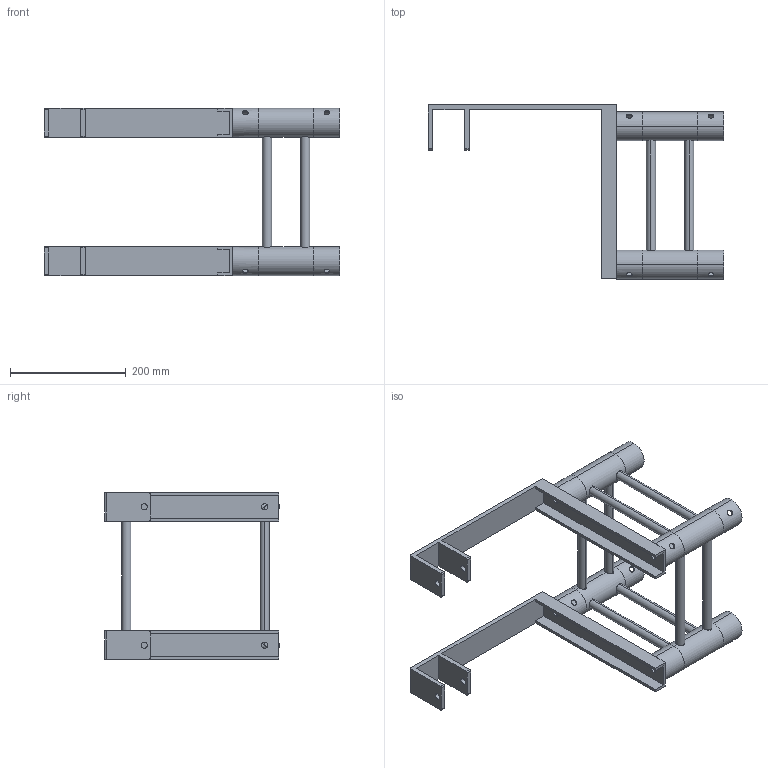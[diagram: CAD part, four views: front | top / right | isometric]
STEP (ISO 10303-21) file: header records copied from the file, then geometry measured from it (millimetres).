
FILE_DESCRIPTION (( 'STEP AP203' ), '1' );
FILE_NAME ('L290CA.STEP', '2009-10-23T14:50:19', ( 'CEDIA' ), ( 'CEDIA INDUSTRIE' ), 'SwSTEP 2.0', 'SolidWorks 2009', '' );
FILE_SCHEMA (( 'CONFIG_CONTROL_DESIGN' ));
Length unit declared in the file: millimetre
Products named in the file (1): L290CA
Bounding box: 511 x 301 x 289 mm (x, y, z)
Volume: 1016816.7 mm3; surface area: 605896.8 mm2
Topology: 1 solids, 17 shells, 278 faces, 686 edges, 432 vertices
Faces by surface type: cylinder 226, plane 52
Entity records: 16591 total; most frequent: CARTESIAN_POINT 10309, ORIENTED_EDGE 1372, DIRECTION 1084, EDGE_CURVE 686, VERTEX_POINT 432, AXIS2_PLACEMENT_3D 383, EDGE_LOOP 346, VECTOR 318
